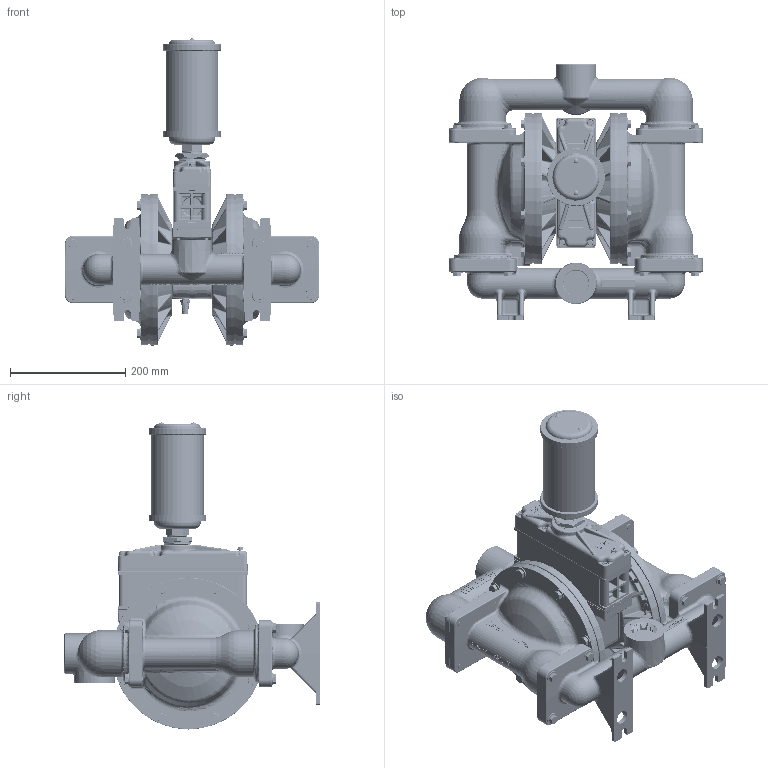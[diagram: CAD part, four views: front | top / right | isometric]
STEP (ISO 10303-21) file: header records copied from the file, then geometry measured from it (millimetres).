
FILE_DESCRIPTION((''),'2;1');
FILE_NAME('PS420_DI_TOP','2022-07-07T16:20:00',('11010273'),(''),'CREO PARAMETRIC BY PTC INC, 2022124','CREO PARAMETRIC BY PTC INC, 2022124','');
FILE_SCHEMA(('CONFIG_CONTROL_DESIGN'));
Length unit declared in the file: inch
Products named in the file (1): PS420_DI_TOP
Bounding box: 442.46 x 444.38 x 533.53 mm (x, y, z)
Volume: 15671119.4 mm3; surface area: 986695.7 mm2
Topology: 1 solids, 1 shells, 11712 faces, 31209 edges, 19606 vertices
Faces by surface type: plane 6885, cylinder 1605, bspline 1280, cone 742, torus 736, sphere 370, extrusion 94
Entity records: 499999 total; most frequent: CARTESIAN_POINT 226397, ORIENTED_EDGE 61702, DIRECTION 49947, EDGE_CURVE 30851, VERTEX_POINT 19606, VECTOR 17799, LINE 17705, AXIS2_PLACEMENT_3D 16074
